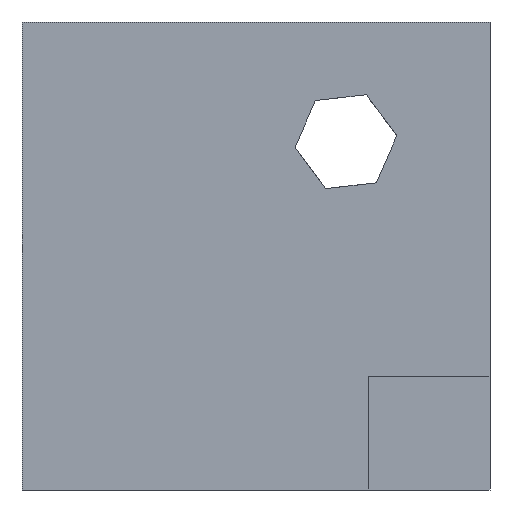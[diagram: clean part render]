
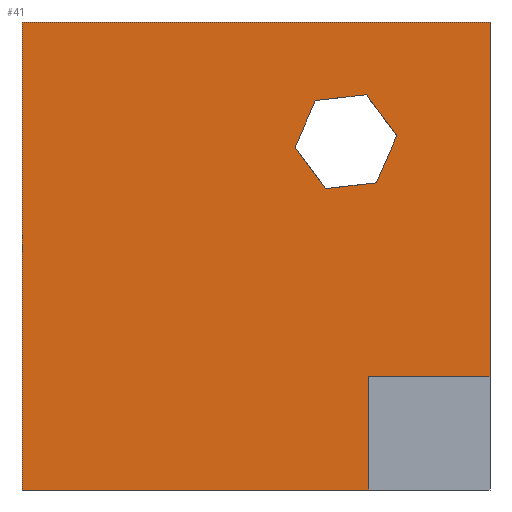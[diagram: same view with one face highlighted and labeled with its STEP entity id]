
A CAD part, front view. The second image highlights one B-rep face of the part: STEP entity #41.
In plain terms, the highlighted planar face has unit normal (0, -1, 0).
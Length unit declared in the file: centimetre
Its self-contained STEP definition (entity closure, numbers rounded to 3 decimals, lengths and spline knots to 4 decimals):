
#19 = CARTESIAN_POINT ( 'NONE',  ( 1000., 0., 241.6607 ) ) ;
#21 = DIRECTION ( 'NONE',  ( 0., 1., 0. ) ) ;
#24 = CARTESIAN_POINT ( 'NONE',  ( 735.6303, 0., 844.6515 ) ) ;
#29 = CARTESIAN_POINT ( 'NONE',  ( 0., 0., 0. ) ) ;
#30 = EDGE_CURVE ( 'NONE', #790, #762, #820, .T. ) ;
#32 = VECTOR ( 'NONE', #361, 100. ) ;
#34 = CARTESIAN_POINT ( 'NONE',  ( 0., 0., 1000. ) ) ;
#41 = ADVANCED_FACE ( 'NONE', ( #735, #373 ), #1083, .F. ) ;
#44 = LINE ( 'NONE', #303, #71 ) ;
#46 = EDGE_CURVE ( 'NONE', #352, #790, #293, .T. ) ;
#69 = CARTESIAN_POINT ( 'NONE',  ( 741.2673, 0., 241.6607 ) ) ;
#71 = VECTOR ( 'NONE', #371, 100. ) ;
#73 = ORIENTED_EDGE ( 'NONE', *, *, #688, .F. ) ;
#76 = VERTEX_POINT ( 'NONE', #24 ) ;
#84 = VERTEX_POINT ( 'NONE', #889 ) ;
#85 = CARTESIAN_POINT ( 'NONE',  ( 757.2451, 0., 656.392 ) ) ;
#89 = CARTESIAN_POINT ( 'NONE',  ( 0., 0., 1000. ) ) ;
#105 = ORIENTED_EDGE ( 'NONE', *, *, #869, .F. ) ;
#107 = LINE ( 'NONE', #34, #1121 ) ;
#109 = VECTOR ( 'NONE', #886, 100. ) ;
#116 = DIRECTION ( 'NONE',  ( 1., 0., 0. ) ) ;
#122 = AXIS2_PLACEMENT_3D ( 'NONE', #288, #21, #559 ) ;
#133 = VERTEX_POINT ( 'NONE', #1043 ) ;
#139 = LINE ( 'NONE', #491, #1087 ) ;
#164 = EDGE_LOOP ( 'NONE', ( #948, #1033, #328, #969, #746, #279 ) ) ;
#169 = VERTEX_POINT ( 'NONE', #69 ) ;
#174 = CARTESIAN_POINT ( 'NONE',  ( 741.2673, 0., 0. ) ) ;
#181 = LINE ( 'NONE', #174, #109 ) ;
#195 = VECTOR ( 'NONE', #802, 100. ) ;
#197 = LINE ( 'NONE', #809, #384 ) ;
#242 = VERTEX_POINT ( 'NONE', #807 ) ;
#273 = EDGE_CURVE ( 'NONE', #514, #1119, #960, .T. ) ;
#279 = ORIENTED_EDGE ( 'NONE', *, *, #30, .T. ) ;
#288 = CARTESIAN_POINT ( 'NONE',  ( 0., 0., 1000. ) ) ;
#293 = LINE ( 'NONE', #986, #32 ) ;
#303 = CARTESIAN_POINT ( 'NONE',  ( 735.6303, 0., 844.6515 ) ) ;
#304 = LINE ( 'NONE', #750, #1001 ) ;
#322 = EDGE_CURVE ( 'NONE', #169, #762, #181, .T. ) ;
#328 = ORIENTED_EDGE ( 'NONE', *, *, #1032, .F. ) ;
#352 = VERTEX_POINT ( 'NONE', #89 ) ;
#357 = EDGE_CURVE ( 'NONE', #1119, #133, #436, .T. ) ;
#361 = DIRECTION ( 'NONE',  ( 0., 0., -1. ) ) ;
#371 = DIRECTION ( 'NONE',  ( -0.993, 0., -0.114 ) ) ;
#373 = FACE_OUTER_BOUND ( 'NONE', #164, .T. ) ;
#377 = DIRECTION ( 'NONE',  ( -0.596, 0., 0.803 ) ) ;
#384 = VECTOR ( 'NONE', #1073, 100. ) ;
#436 = LINE ( 'NONE', #708, #452 ) ;
#452 = VECTOR ( 'NONE', #1016, 100. ) ;
#459 = CARTESIAN_POINT ( 'NONE',  ( 626.9386, 0., 832.1722 ) ) ;
#473 = VECTOR ( 'NONE', #813, 100. ) ;
#478 = CARTESIAN_POINT ( 'NONE',  ( 583.4002, 0., 731.8028 ) ) ;
#490 = EDGE_CURVE ( 'NONE', #84, #76, #304, .T. ) ;
#491 = CARTESIAN_POINT ( 'NONE',  ( 1000., 0., 1000. ) ) ;
#514 = VERTEX_POINT ( 'NONE', #478 ) ;
#530 = VECTOR ( 'NONE', #1076, 100. ) ;
#536 = EDGE_CURVE ( 'NONE', #169, #541, #728, .T. ) ;
#538 = CARTESIAN_POINT ( 'NONE',  ( 583.4002, 0., 731.8028 ) ) ;
#541 = VERTEX_POINT ( 'NONE', #19 ) ;
#559 = DIRECTION ( 'NONE',  ( 0., 0., 1. ) ) ;
#563 = CARTESIAN_POINT ( 'NONE',  ( 0., 0., 0. ) ) ;
#577 = EDGE_CURVE ( 'NONE', #776, #514, #197, .T. ) ;
#598 = DIRECTION ( 'NONE',  ( 0.398, 0., 0.917 ) ) ;
#600 = ORIENTED_EDGE ( 'NONE', *, *, #577, .F. ) ;
#632 = CARTESIAN_POINT ( 'NONE',  ( 648.5534, 0., 643.9127 ) ) ;
#688 = EDGE_CURVE ( 'NONE', #76, #776, #44, .T. ) ;
#702 = ORIENTED_EDGE ( 'NONE', *, *, #273, .F. ) ;
#708 = CARTESIAN_POINT ( 'NONE',  ( 648.5534, 0., 643.9127 ) ) ;
#710 = CARTESIAN_POINT ( 'NONE',  ( 741.2673, 0., 241.6607 ) ) ;
#728 = LINE ( 'NONE', #710, #530 ) ;
#735 = FACE_BOUND ( 'NONE', #953, .T. ) ;
#746 = ORIENTED_EDGE ( 'NONE', *, *, #46, .T. ) ;
#750 = CARTESIAN_POINT ( 'NONE',  ( 800.7835, 0., 756.7614 ) ) ;
#762 = VERTEX_POINT ( 'NONE', #925 ) ;
#775 = ORIENTED_EDGE ( 'NONE', *, *, #490, .F. ) ;
#776 = VERTEX_POINT ( 'NONE', #459 ) ;
#783 = LINE ( 'NONE', #85, #1044 ) ;
#790 = VERTEX_POINT ( 'NONE', #563 ) ;
#802 = DIRECTION ( 'NONE',  ( 1., 0., 0. ) ) ;
#807 = CARTESIAN_POINT ( 'NONE',  ( 1000., 0., 1000. ) ) ;
#809 = CARTESIAN_POINT ( 'NONE',  ( 626.9386, 0., 832.1722 ) ) ;
#810 = ORIENTED_EDGE ( 'NONE', *, *, #357, .F. ) ;
#813 = DIRECTION ( 'NONE',  ( 0.596, 0., -0.803 ) ) ;
#820 = LINE ( 'NONE', #29, #195 ) ;
#852 = DIRECTION ( 'NONE',  ( 0., 0., -1. ) ) ;
#869 = EDGE_CURVE ( 'NONE', #133, #84, #783, .T. ) ;
#886 = DIRECTION ( 'NONE',  ( 0., 0., -1. ) ) ;
#889 = CARTESIAN_POINT ( 'NONE',  ( 800.7835, 0., 756.7614 ) ) ;
#925 = CARTESIAN_POINT ( 'NONE',  ( 741.2673, 0., 0. ) ) ;
#948 = ORIENTED_EDGE ( 'NONE', *, *, #322, .F. ) ;
#953 = EDGE_LOOP ( 'NONE', ( #775, #105, #810, #702, #600, #73 ) ) ;
#960 = LINE ( 'NONE', #538, #473 ) ;
#969 = ORIENTED_EDGE ( 'NONE', *, *, #1063, .F. ) ;
#986 = CARTESIAN_POINT ( 'NONE',  ( 0., 0., 1000. ) ) ;
#1001 = VECTOR ( 'NONE', #377, 100. ) ;
#1016 = DIRECTION ( 'NONE',  ( 0.993, 0., 0.114 ) ) ;
#1032 = EDGE_CURVE ( 'NONE', #242, #541, #139, .T. ) ;
#1033 = ORIENTED_EDGE ( 'NONE', *, *, #536, .T. ) ;
#1043 = CARTESIAN_POINT ( 'NONE',  ( 757.2451, 0., 656.392 ) ) ;
#1044 = VECTOR ( 'NONE', #598, 100. ) ;
#1063 = EDGE_CURVE ( 'NONE', #352, #242, #107, .T. ) ;
#1073 = DIRECTION ( 'NONE',  ( -0.398, 0., -0.917 ) ) ;
#1076 = DIRECTION ( 'NONE',  ( 1., 0., 0. ) ) ;
#1083 = PLANE ( 'NONE',  #122 ) ;
#1087 = VECTOR ( 'NONE', #852, 100. ) ;
#1119 = VERTEX_POINT ( 'NONE', #632 ) ;
#1121 = VECTOR ( 'NONE', #116, 100. ) ;
